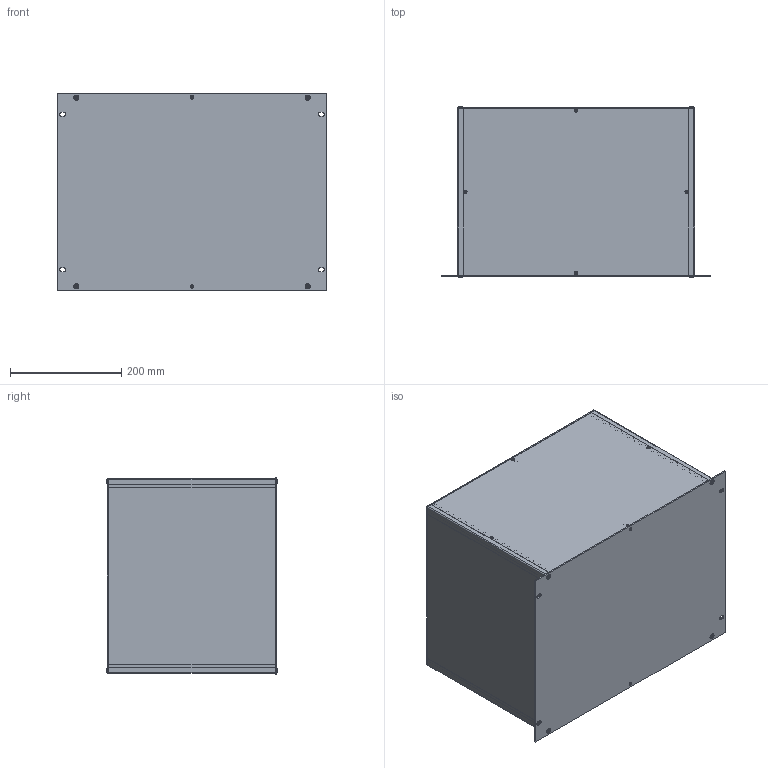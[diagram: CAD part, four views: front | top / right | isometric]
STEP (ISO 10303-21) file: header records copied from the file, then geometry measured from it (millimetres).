
FILE_DESCRIPTION(/* description */ (''),/* implementation_level */ '2;1');
FILE_NAME(/* name */ '//diskstation/Kunden/Gehäuse/Gehäuse/8HE/step/19 Zoll 8HE Rack Gehäuse Tiefe-300.step',/* time_stamp */ '2022-02-17T17:16:43+01:00',/* author */ (''),/* organization */ (''),/* preprocessor_version */ 'ST-DEVELOPER v18.1',/* originating_system */ 'Autodesk Translation Framework v10.10.0.1391',/* authorisation */ '');
FILE_SCHEMA (('AUTOMOTIVE_DESIGN { 1 0 10303 214 3 1 1 }'));
Length unit declared in the file: millimetre
Products named in the file (28): 8HE Gehäuse mit parametern; Gehäuse; Gehäuseprofil 1 unten links; Gehäuseprofil 2 oben rechts; Gehäuseprofil 1 unten rechts; Gehäuseprofil 2 oben links; Rückplatte; Deckel; Seitenteil links; Seitenteil rechts; Bodenplatte; Montageklotz Front/Deckel; Montageklotz Front/Boden; Montageklotz Rück/Deckel; Montageklotz Rück/Boden; Gewindestreifen; Frontplatte; Schrauben M5; Schraube Front; Schraube Front (1); Schraube Front (2); Schraube Front (3); Schraube Rück (1); Schraube Rück; Schraube Rück (2); Schraube Rück (3); Schrauben M3; HI_Senkschraube DIN 965 A v2 M3x5 24677.030.005(High)
Assembly tree (37 placements, depth 3):
  8HE Gehäuse mit parametern
    Gehäuse
      Gehäuseprofil 1 unten links
      Gehäuseprofil 2 oben rechts
      Gehäuseprofil 1 unten rechts
      Gehäuseprofil 2 oben links
      Rückplatte
      Deckel
      Seitenteil links
      Seitenteil rechts
      Bodenplatte
      Montageklotz Front/Deckel
      Montageklotz Front/Boden
      Montageklotz Rück/Deckel
      Montageklotz Rück/Boden
      Gewindestreifen  x2
    Frontplatte
    Schrauben M5
      Schraube Front
      Schraube Front (1)
      Schraube Front (2)
      Schraube Front (3)
      Schraube Rück (1)
      Schraube Rück
      Schraube Rück (2)
      Schraube Rück (3)
    Schrauben M3
      HI_Senkschraube DIN 965 A v2 M3x5 24677.030.005(High)  x10
Bounding box: 483 x 308.2 x 354.8 mm (x, y, z)
Volume: 1965850.5 mm3; surface area: 1670012.5 mm2
Topology: 34 solids, 34 shells, 874 faces, 2136 edges, 1330 vertices
Faces by surface type: cylinder 352, plane 342, cone 164, torus 8, bspline 8
Full cylindrical faces by diameter (mm): 2.529 x110, 3 x10, 3.2 x10, 4.234 x40, 5 x8, 5.2 x4, 5.3 x8, 5.6 x10, 9.5 x8
Entity records: 17235 total; most frequent: CARTESIAN_POINT 3138, DIRECTION 2890, ORIENTED_EDGE 2550, EDGE_CURVE 1275, AXIS2_PLACEMENT_3D 1090, VERTEX_POINT 798, EDGE_LOOP 761, LINE 710
